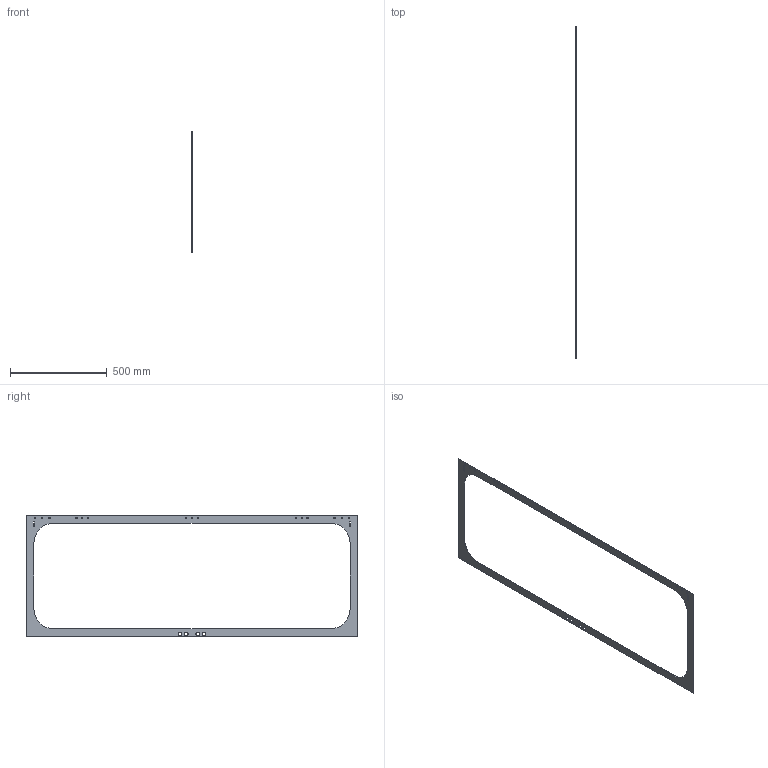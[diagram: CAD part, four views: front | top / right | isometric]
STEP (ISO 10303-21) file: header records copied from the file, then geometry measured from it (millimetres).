
FILE_DESCRIPTION(('FreeCAD Model'),'2;1');
FILE_NAME('Open CASCADE Shape Model','2026-10-06T09:33:39',('FreeCAD'),( 'FreeCAD'),'Open CASCADE STEP processor 7.8','FreeCAD','Unknown');
FILE_SCHEMA(('AUTOMOTIVE_DESIGN { 1 0 10303 214 1 1 1 1 }'));
Length unit declared in the file: millimetre
Products named in the file (1): Open CASCADE STEP translator 7.8 88
Bounding box: 3.17 x 1715.12 x 626 mm (x, y, z)
Volume: 600708.9 mm3; surface area: 409416.1 mm2
Topology: 1 solids, 1 shells, 68 faces, 188 edges, 122 vertices
Faces by surface type: cylinder 33, cone 15, plane 14, torus 6
Full cylindrical faces by diameter (mm): 6.6 x15, 19.4 x4
Entity records: 2314 total; most frequent: DIRECTION 430, CARTESIAN_POINT 379, ORIENTED_EDGE 376, EDGE_CURVE 188, AXIS2_PLACEMENT_3D 173, VERTEX_POINT 122, FACE_BOUND 112, EDGE_LOOP 112
